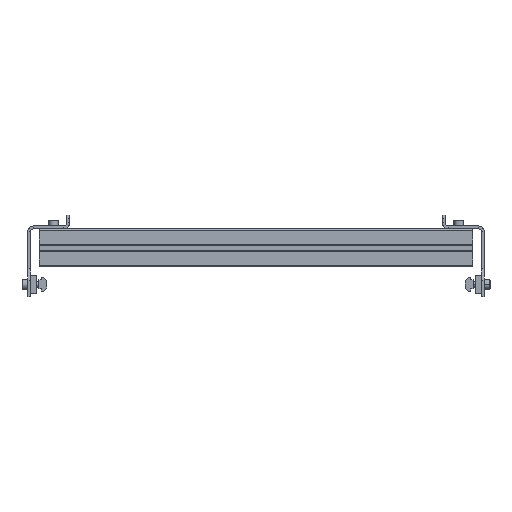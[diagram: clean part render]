
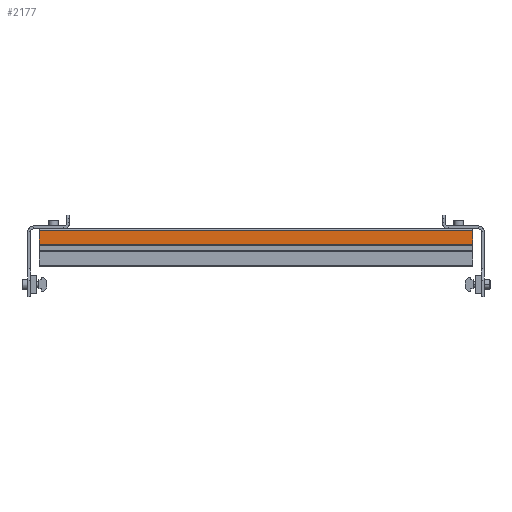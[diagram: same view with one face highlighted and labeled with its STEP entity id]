
A CAD part, top view. The second image highlights one B-rep face of the part: STEP entity #2177.
In plain terms, the highlighted planar face has unit normal (0, 0, 1) as drawn and (0, 1, 0) by its records, which use the part's own axes.
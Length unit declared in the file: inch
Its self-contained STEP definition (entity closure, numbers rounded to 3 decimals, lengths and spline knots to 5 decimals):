
#43 = VECTOR ( 'NONE', #3338, 39.37008 ) ;
#180 = ORIENTED_EDGE ( 'NONE', *, *, #6275, .F. ) ;
#228 = VERTEX_POINT ( 'NONE', #2479 ) ;
#675 = CARTESIAN_POINT ( 'NONE',  ( -0.14758, 0.441, -75. ) ) ;
#900 = EDGE_CURVE ( 'NONE', #228, #8277, #1864, .T. ) ;
#919 = CARTESIAN_POINT ( 'NONE',  ( -0.14758, 0.441, -8.98 ) ) ;
#1157 = VERTEX_POINT ( 'NONE', #919 ) ;
#1676 = EDGE_CURVE ( 'NONE', #5464, #8277, #8253, .T. ) ;
#1784 = CARTESIAN_POINT ( 'NONE',  ( -0.7875, 0.441, 75. ) ) ;
#1864 = LINE ( 'NONE', #5835, #8070 ) ;
#1952 = LINE ( 'NONE', #3088, #4974 ) ;
#1974 = DIRECTION ( 'NONE',  ( 1., 0., 0. ) ) ;
#2177 = ADVANCED_FACE ( 'NONE', ( #3035 ), #3784, .F. ) ;
#2479 = CARTESIAN_POINT ( 'NONE',  ( -0.14758, 0.441, 8.98 ) ) ;
#2547 = LINE ( 'NONE', #675, #4460 ) ;
#2742 = ORIENTED_EDGE ( 'NONE', *, *, #900, .F. ) ;
#3035 = FACE_OUTER_BOUND ( 'NONE', #6217, .T. ) ;
#3088 = CARTESIAN_POINT ( 'NONE',  ( 0.7875, 0.441, -8.98 ) ) ;
#3099 = DIRECTION ( 'NONE',  ( 0., -1., 0. ) ) ;
#3239 = DIRECTION ( 'NONE',  ( -1., 0., 0. ) ) ;
#3338 = DIRECTION ( 'NONE',  ( 0., 0., 1. ) ) ;
#3484 = ORIENTED_EDGE ( 'NONE', *, *, #1676, .T. ) ;
#3784 = PLANE ( 'NONE',  #8229 ) ;
#4460 = VECTOR ( 'NONE', #7055, 39.37008 ) ;
#4600 = CARTESIAN_POINT ( 'NONE',  ( -0.725, 0.441, 8.98 ) ) ;
#4677 = CARTESIAN_POINT ( 'NONE',  ( -0.725, 0.441, 75. ) ) ;
#4974 = VECTOR ( 'NONE', #1974, 39.37008 ) ;
#5464 = VERTEX_POINT ( 'NONE', #7776 ) ;
#5728 = ORIENTED_EDGE ( 'NONE', *, *, #6024, .F. ) ;
#5835 = CARTESIAN_POINT ( 'NONE',  ( 0.7875, 0.441, 8.98 ) ) ;
#6024 = EDGE_CURVE ( 'NONE', #5464, #1157, #1952, .T. ) ;
#6217 = EDGE_LOOP ( 'NONE', ( #180, #5728, #3484, #2742 ) ) ;
#6275 = EDGE_CURVE ( 'NONE', #1157, #228, #2547, .T. ) ;
#7055 = DIRECTION ( 'NONE',  ( 0., 0., 1. ) ) ;
#7776 = CARTESIAN_POINT ( 'NONE',  ( -0.725, 0.441, -8.98 ) ) ;
#8070 = VECTOR ( 'NONE', #3239, 39.37008 ) ;
#8229 = AXIS2_PLACEMENT_3D ( 'NONE', #1784, #3099, #8232 ) ;
#8232 = DIRECTION ( 'NONE',  ( 0., 0., -1. ) ) ;
#8253 = LINE ( 'NONE', #4677, #43 ) ;
#8277 = VERTEX_POINT ( 'NONE', #4600 ) ;
